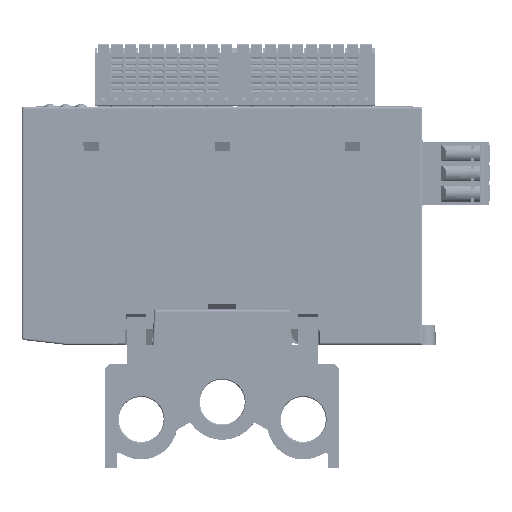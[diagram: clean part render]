
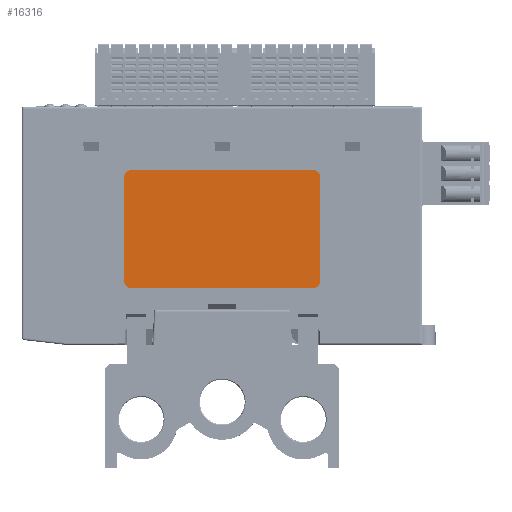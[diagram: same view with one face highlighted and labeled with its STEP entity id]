
A CAD part, front view. The second image highlights one B-rep face of the part: STEP entity #16316.
In plain terms, the highlighted planar face has unit normal (0, -1, 0).
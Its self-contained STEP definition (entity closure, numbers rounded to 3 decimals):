
#7006=FACE_OUTER_BOUND('',#70560,.T.);
#16316=ADVANCED_FACE('',(#7006),#25835,.F.);
#25835=PLANE('',#179001);
#33474=LINE('',#249793,#51465);
#33478=LINE('',#249801,#51469);
#33480=LINE('',#249805,#51471);
#33483=LINE('',#249813,#51474);
#51465=VECTOR('',#196627,1.);
#51469=VECTOR('',#196633,1.);
#51471=VECTOR('',#196637,1.);
#51474=VECTOR('',#196644,1.);
#70560=EDGE_LOOP('',(#84015,#84016,#84017,#84018,#84019,#84020,#84021,#84022));
#84015=ORIENTED_EDGE('',*,*,#150257,.F.);
#84016=ORIENTED_EDGE('',*,*,#150262,.T.);
#84017=ORIENTED_EDGE('',*,*,#150263,.F.);
#84018=ORIENTED_EDGE('',*,*,#150264,.T.);
#84019=ORIENTED_EDGE('',*,*,#150259,.F.);
#84020=ORIENTED_EDGE('',*,*,#150265,.T.);
#84021=ORIENTED_EDGE('',*,*,#150253,.F.);
#84022=ORIENTED_EDGE('',*,*,#150266,.T.);
#133189=VERTEX_POINT('',#249794);
#133190=VERTEX_POINT('',#249795);
#133191=VERTEX_POINT('',#249800);
#133192=VERTEX_POINT('',#249802);
#133193=VERTEX_POINT('',#249806);
#133194=VERTEX_POINT('',#249807);
#133195=VERTEX_POINT('',#249812);
#133196=VERTEX_POINT('',#249814);
#150253=EDGE_CURVE('',#133189,#133190,#33474,.T.);
#150257=EDGE_CURVE('',#133191,#133192,#33478,.T.);
#150259=EDGE_CURVE('',#133193,#133194,#33480,.T.);
#150262=EDGE_CURVE('',#133191,#133195,#173640,.T.);
#150263=EDGE_CURVE('',#133196,#133195,#33483,.T.);
#150264=EDGE_CURVE('',#133196,#133194,#173641,.T.);
#150265=EDGE_CURVE('',#133193,#133190,#173642,.T.);
#150266=EDGE_CURVE('',#133189,#133192,#173643,.T.);
#173640=CIRCLE('',#178997,1.8);
#173641=CIRCLE('',#178998,1.8);
#173642=CIRCLE('',#178999,1.8);
#173643=CIRCLE('',#179000,1.8);
#178997=AXIS2_PLACEMENT_3D('',#249811,#196642,#196643);
#178998=AXIS2_PLACEMENT_3D('',#249815,#196645,#196646);
#178999=AXIS2_PLACEMENT_3D('',#249816,#196647,#196648);
#179000=AXIS2_PLACEMENT_3D('',#249817,#196649,#196650);
#179001=AXIS2_PLACEMENT_3D('',#249818,#196651,#196652);
#196627=DIRECTION('',(0.,0.,-1.));
#196633=DIRECTION('',(1.,0.,0.));
#196637=DIRECTION('',(-1.,0.,0.));
#196642=DIRECTION('',(0.,-1.,0.));
#196643=DIRECTION('',(0.,0.,1.));
#196644=DIRECTION('',(0.,0.,1.));
#196645=DIRECTION('',(0.,-1.,0.));
#196646=DIRECTION('',(0.,0.,-1.));
#196647=DIRECTION('',(0.,-1.,0.));
#196648=DIRECTION('',(0.,0.,-1.));
#196649=DIRECTION('',(0.,-1.,0.));
#196650=DIRECTION('',(0.,0.,-1.));
#196651=DIRECTION('',(0.,1.,0.));
#196652=DIRECTION('',(0.,0.,-1.));
#249793=CARTESIAN_POINT('',(525.15,-102.64,34.634));
#249794=CARTESIAN_POINT('',(525.15,-102.64,47.934));
#249795=CARTESIAN_POINT('',(525.15,-102.64,21.334));
#249800=CARTESIAN_POINT('',(476.75,-102.64,49.734));
#249801=CARTESIAN_POINT('',(500.05,-102.64,49.734));
#249802=CARTESIAN_POINT('',(523.35,-102.64,49.734));
#249805=CARTESIAN_POINT('',(475.05,-102.64,19.534));
#249806=CARTESIAN_POINT('',(523.35,-102.64,19.534));
#249807=CARTESIAN_POINT('',(476.75,-102.64,19.534));
#249811=CARTESIAN_POINT('',(476.75,-102.64,47.934));
#249812=CARTESIAN_POINT('',(474.95,-102.64,47.934));
#249813=CARTESIAN_POINT('',(474.95,-102.64,34.634));
#249814=CARTESIAN_POINT('',(474.95,-102.64,21.334));
#249815=CARTESIAN_POINT('',(476.75,-102.64,21.334));
#249816=CARTESIAN_POINT('',(523.35,-102.64,21.334));
#249817=CARTESIAN_POINT('',(523.35,-102.64,47.934));
#249818=CARTESIAN_POINT('',(500.041,-102.64,23.341));
